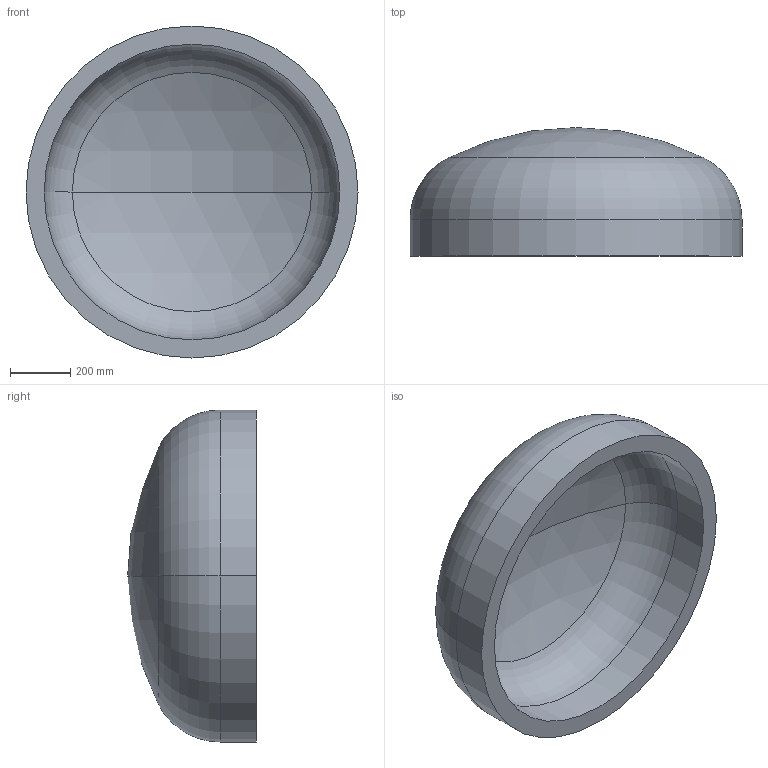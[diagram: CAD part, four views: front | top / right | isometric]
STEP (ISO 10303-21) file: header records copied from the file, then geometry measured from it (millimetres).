
FILE_DESCRIPTION (( 'STEP AP203' ), '1' );
FILE_NAME ('DIN 28013 Korbbogenform_-_Boden DIN 28013 - 1100 x 120 - I - s=60.step', '2016-07-01T09:11:07', ( '' ), ( '' ), 'SwSTEP 2.0', 'SolidWorks 2013', '' );
FILE_SCHEMA (( 'CONFIG_CONTROL_DESIGN' ));
Length unit declared in the file: millimetre
Products named in the file (1): DIN 28013 Korbbogenform_-_Boden DIN 28013 - 1100 x 120 - I - s=60
Bounding box: 1100 x 426.2 x 1100 mm (x, y, z)
Volume: 97222832 mm3; surface area: 3444335.6 mm2
Topology: 1 solids, 1 shells, 13 faces, 24 edges, 14 vertices
Faces by surface type: torus 4, cylinder 4, sphere 4, plane 1
Entity records: 407 total; most frequent: DIRECTION 72, CARTESIAN_POINT 52, ORIENTED_EDGE 48, AXIS2_PLACEMENT_3D 34, EDGE_CURVE 24, CIRCLE 20, VERTEX_POINT 14, EDGE_LOOP 14
